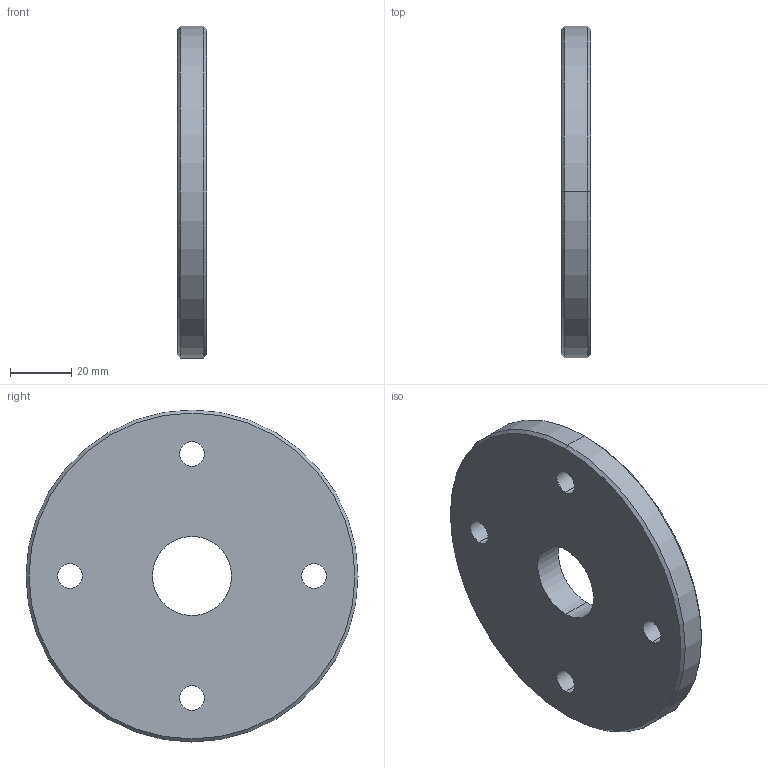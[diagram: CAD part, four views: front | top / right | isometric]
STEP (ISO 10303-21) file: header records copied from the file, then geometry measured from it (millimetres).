
FILE_DESCRIPTION (( 'STEP AP214' ), '1' );
FILE_NAME ('E38SL-6L...STEP', '2016-05-23T04:38:02', ( 'eran' ), ( '' ), 'SwSTEP 2.0', 'SolidWorks 2016', '' );
FILE_SCHEMA (( 'AUTOMOTIVE_DESIGN' ));
Length unit declared in the file: millimetre
Products named in the file (1): E38SL-6L..
Bounding box: 9.5 x 108 x 108 mm (x, y, z)
Volume: 79853 mm3; surface area: 21427.4 mm2
Topology: 1 solids, 1 shells, 18 faces, 44 edges, 28 vertices
Faces by surface type: cylinder 12, cone 4, plane 2
Entity records: 598 total; most frequent: DIRECTION 110, CARTESIAN_POINT 91, ORIENTED_EDGE 88, AXIS2_PLACEMENT_3D 47, EDGE_CURVE 44, VERTEX_POINT 28, EDGE_LOOP 28, CIRCLE 28
